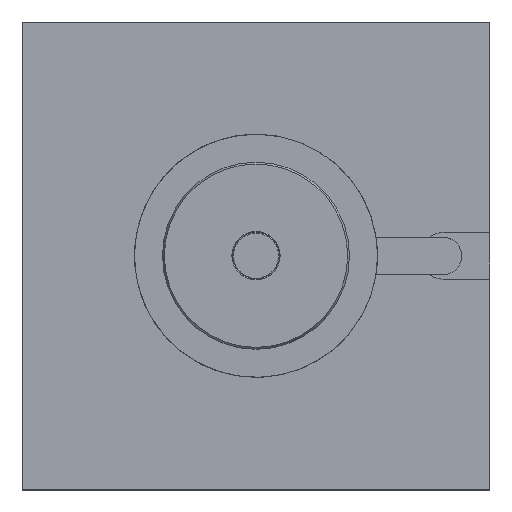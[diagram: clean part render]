
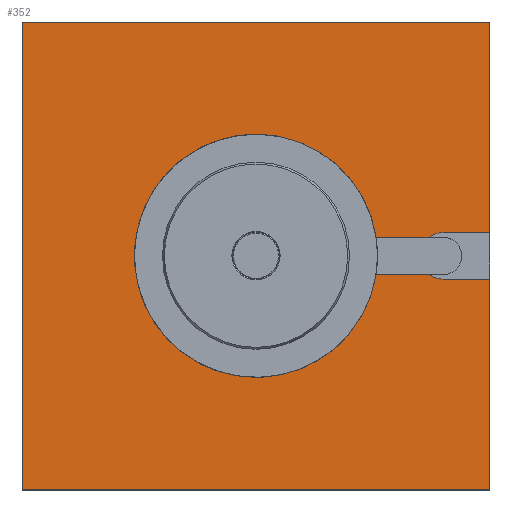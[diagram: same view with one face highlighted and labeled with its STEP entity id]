
A CAD part, top view. The second image highlights one B-rep face of the part: STEP entity #352.
In plain terms, the highlighted planar face has unit normal (0, 0, 1).
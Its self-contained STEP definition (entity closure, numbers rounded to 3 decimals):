
#352 = ADVANCED_FACE( '', ( #736 ), #737, .T. );
#736 = FACE_OUTER_BOUND( '', #1175, .T. );
#737 = PLANE( '', #1176 );
#1175 = EDGE_LOOP( '', ( #1997, #1998, #1999, #2000, #2001, #2002, #2003, #2004, #2005, #2006, #2007, #2008 ) );
#1176 = AXIS2_PLACEMENT_3D( '', #2009, #2010, #2011 );
#1997 = ORIENTED_EDGE( '', *, *, #2457, .F. );
#1998 = ORIENTED_EDGE( '', *, *, #2349, .F. );
#1999 = ORIENTED_EDGE( '', *, *, #2297, .F. );
#2000 = ORIENTED_EDGE( '', *, *, #2318, .F. );
#2001 = ORIENTED_EDGE( '', *, *, #2175, .T. );
#2002 = ORIENTED_EDGE( '', *, *, #2454, .T. );
#2003 = ORIENTED_EDGE( '', *, *, #2447, .T. );
#2004 = ORIENTED_EDGE( '', *, *, #2210, .T. );
#2005 = ORIENTED_EDGE( '', *, *, #2179, .T. );
#2006 = ORIENTED_EDGE( '', *, *, #2411, .F. );
#2007 = ORIENTED_EDGE( '', *, *, #2426, .F. );
#2008 = ORIENTED_EDGE( '', *, *, #2197, .F. );
#2009 = CARTESIAN_POINT( '', ( -125., -125., 2.5 ) );
#2010 = DIRECTION( '', ( 0., 0., 1. ) );
#2011 = DIRECTION( '', ( 0., -1., 0. ) );
#2175 = EDGE_CURVE( '', #2528, #2529, #2530, .T. );
#2179 = EDGE_CURVE( '', #2537, #2535, #2538, .T. );
#2197 = EDGE_CURVE( '', #2568, #2570, #2571, .T. );
#2210 = EDGE_CURVE( '', #2591, #2537, #2592, .T. );
#2297 = EDGE_CURVE( '', #2731, #2733, #2734, .T. );
#2318 = EDGE_CURVE( '', #2528, #2731, #2762, .T. );
#2349 = EDGE_CURVE( '', #2733, #2808, #2809, .T. );
#2411 = EDGE_CURVE( '', #2892, #2535, #2894, .T. );
#2426 = EDGE_CURVE( '', #2570, #2892, #2911, .T. );
#2447 = EDGE_CURVE( '', #2939, #2591, #2940, .T. );
#2454 = EDGE_CURVE( '', #2529, #2939, #2947, .T. );
#2457 = EDGE_CURVE( '', #2808, #2568, #2950, .T. );
#2528 = VERTEX_POINT( '', #3049 );
#2529 = VERTEX_POINT( '', #3050 );
#2530 = LINE( '', #3051, #3052 );
#2535 = VERTEX_POINT( '', #3059 );
#2537 = VERTEX_POINT( '', #3062 );
#2538 = LINE( '', #3063, #3064 );
#2568 = VERTEX_POINT( '', #3103 );
#2570 = VERTEX_POINT( '', #3106 );
#2571 = LINE( '', #3107, #3108 );
#2591 = VERTEX_POINT( '', #3137 );
#2592 = LINE( '', #3138, #3139 );
#2731 = VERTEX_POINT( '', #3328 );
#2733 = VERTEX_POINT( '', #3331 );
#2734 = CIRCLE( '', #3332, 12.5 );
#2762 = LINE( '', #3375, #3376 );
#2808 = VERTEX_POINT( '', #3444 );
#2809 = LINE( '', #3445, #3446 );
#2892 = VERTEX_POINT( '', #3564 );
#2894 = LINE( '', #3567, #3568 );
#2911 = CIRCLE( '', #3591, 12.5 );
#2939 = VERTEX_POINT( '', #3623 );
#2940 = LINE( '', #3624, #3625 );
#2947 = LINE( '', #3636, #3637 );
#2950 = CIRCLE( '', #3640, 65. );
#3049 = CARTESIAN_POINT( '', ( 125., 12.5, 2.5 ) );
#3050 = CARTESIAN_POINT( '', ( 125., 125., 2.5 ) );
#3051 = CARTESIAN_POINT( '', ( 125., -125., 2.5 ) );
#3052 = VECTOR( '', #3693, 1000. );
#3059 = CARTESIAN_POINT( '', ( 125., -12.5, 2.5 ) );
#3062 = CARTESIAN_POINT( '', ( 125., -125., 2.5 ) );
#3063 = CARTESIAN_POINT( '', ( 125., -125., 2.5 ) );
#3064 = VECTOR( '', #3697, 1000. );
#3103 = CARTESIAN_POINT( '', ( 64.226, -10., 2.5 ) );
#3106 = CARTESIAN_POINT( '', ( 92.5, -10., 2.5 ) );
#3107 = CARTESIAN_POINT( '', ( 0., -10., 2.5 ) );
#3108 = VECTOR( '', #3720, 1000. );
#3137 = CARTESIAN_POINT( '', ( -125., -125., 2.5 ) );
#3138 = CARTESIAN_POINT( '', ( -125., -125., 2.5 ) );
#3139 = VECTOR( '', #3733, 1000. );
#3328 = CARTESIAN_POINT( '', ( 100., 12.5, 2.5 ) );
#3331 = CARTESIAN_POINT( '', ( 92.5, 10., 2.5 ) );
#3332 = AXIS2_PLACEMENT_3D( '', #3859, #3860, #3861 );
#3375 = CARTESIAN_POINT( '', ( 148.185, 12.5, 2.5 ) );
#3376 = VECTOR( '', #3881, 1000. );
#3444 = CARTESIAN_POINT( '', ( 64.226, 10., 2.5 ) );
#3445 = CARTESIAN_POINT( '', ( 100., 10., 2.5 ) );
#3446 = VECTOR( '', #3914, 1000. );
#3564 = CARTESIAN_POINT( '', ( 100., -12.5, 2.5 ) );
#3567 = CARTESIAN_POINT( '', ( 100., -12.5, 2.5 ) );
#3568 = VECTOR( '', #3977, 1000. );
#3591 = AXIS2_PLACEMENT_3D( '', #3994, #3995, #3996 );
#3623 = CARTESIAN_POINT( '', ( -125., 125., 2.5 ) );
#3624 = CARTESIAN_POINT( '', ( -125., 125., 2.5 ) );
#3625 = VECTOR( '', #4019, 1000. );
#3636 = CARTESIAN_POINT( '', ( 125., 125., 2.5 ) );
#3637 = VECTOR( '', #4021, 1000. );
#3640 = AXIS2_PLACEMENT_3D( '', #4022, #4023, #4024 );
#3693 = DIRECTION( '', ( 0., 1., 0. ) );
#3697 = DIRECTION( '', ( 0., 1., 0. ) );
#3720 = DIRECTION( '', ( 1., 0., 0. ) );
#3733 = DIRECTION( '', ( 1., 0., 0. ) );
#3859 = CARTESIAN_POINT( '', ( 100., 0., 2.5 ) );
#3860 = DIRECTION( '', ( 0., 0., 1. ) );
#3861 = DIRECTION( '', ( 0., 1., 0. ) );
#3881 = DIRECTION( '', ( -1., 0., 0. ) );
#3914 = DIRECTION( '', ( -1., 0., 0. ) );
#3977 = DIRECTION( '', ( 1., 0., 0. ) );
#3994 = CARTESIAN_POINT( '', ( 100., 0., 2.5 ) );
#3995 = DIRECTION( '', ( 0., 0., 1. ) );
#3996 = DIRECTION( '', ( 0., 1., 0. ) );
#4019 = DIRECTION( '', ( 0., -1., 0. ) );
#4021 = DIRECTION( '', ( -1., 0., 0. ) );
#4022 = CARTESIAN_POINT( '', ( 0., 0., 2.5 ) );
#4023 = DIRECTION( '', ( 0., 0., 1. ) );
#4024 = DIRECTION( '', ( 1., 0., 0. ) );
